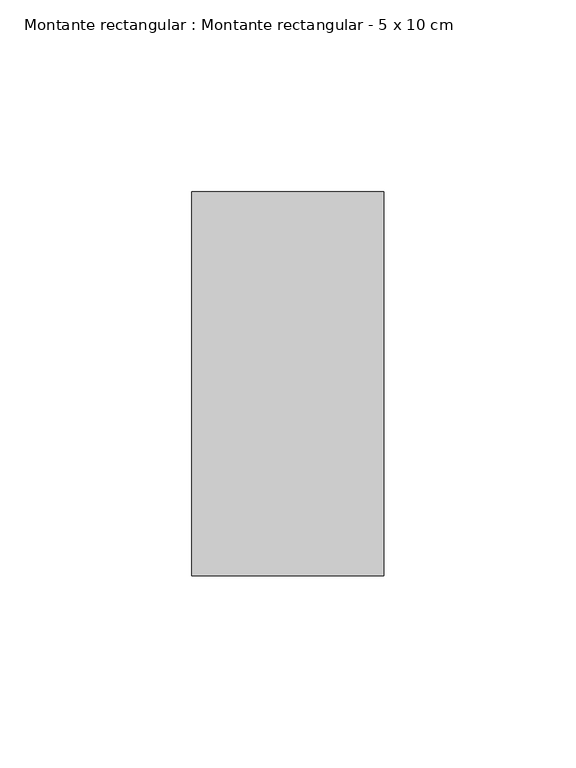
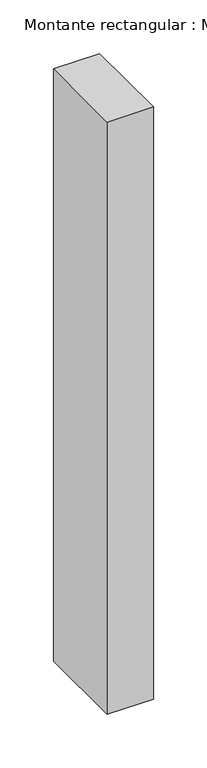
"""IFC4 building model written with IfcOpenShell, lengths in millimetres: member geometry, Montante rectangular : Montante rectangular - 5 x 10 cm."""

import ifcopenshell
import ifcopenshell.guid

model = None  # the IFC model being written
_history = None  # IfcOwnerHistory: only IFC2X3 demands one
_inside = {}  # id of a spatial element -> (the spatial element, [elements in it])
_under = {}  # id of a project, library or spatial element -> (it, [spatial elements below it])
_declared = {}  # id of a project -> (the project, [libraries it declares])
_typed = {}  # id of a type object -> (the type object, [elements of that type])
_made_of = {}  # id of a material, layer set ... -> (it, [elements and type objects made of it])


def new_model(schema):
    """Start an empty IFC model of exactly this schema.

    Asked for "IFC4X3", IfcOpenShell would pick the latest addendum, in which some entities
    have other attributes; the version numbers below select the first issue.
    IFC2X3 requires an IfcOwnerHistory on every rooted entity: one is made here for all.
    """
    global model, _history
    if schema == "IFC4X3":
        model = ifcopenshell.file(schema_version=(4, 3, 0, 0))
    else:
        model = ifcopenshell.file(schema=schema)
    _inside.clear()
    _under.clear()
    _declared.clear()
    _typed.clear()
    _made_of.clear()
    _history = None
    if model.schema == "IFC2X3":
        org = make("IfcOrganization", Name="unknown")
        user = make(
            "IfcPersonAndOrganization",
            ThePerson=make("IfcPerson", FamilyName="unknown"),
            TheOrganization=org,
        )
        app = make(
            "IfcApplication",
            ApplicationDeveloper=org,
            Version="unknown",
            ApplicationFullName="unknown",
            ApplicationIdentifier="unknown",
        )
        _history = make(
            "IfcOwnerHistory",
            OwningUser=user,
            OwningApplication=app,
            ChangeAction="ADDED",
            CreationDate=0,
        )
    return model


def make(cls, **values):
    """One entity of the class cls with the attributes given. An attribute that is None is left unset."""
    return model.create_entity(
        cls, **{name: value for name, value in values.items() if value is not None}
    )


def rooted(cls, **values):
    """An entity with a GlobalId (a new one), such as an element, a storey or a relation."""
    return make(cls, GlobalId=ifcopenshell.guid.new(), OwnerHistory=_history, **values)


def si_unit(unit_type, name, prefix=None):
    """IfcSIUnit, for example si_unit("LENGTHUNIT", "METRE", prefix="MILLI")."""
    return make("IfcSIUnit", UnitType=unit_type, Prefix=prefix, Name=name)


def assignment(units):
    """IfcUnitAssignment: the units of a project."""
    return None if units is None else make("IfcUnitAssignment", Units=units)


def point(xyz):
    """IfcCartesianPoint."""
    return None if xyz is None else make("IfcCartesianPoint", Coordinates=xyz)


def direction(xyz):
    """IfcDirection."""
    return None if xyz is None else make("IfcDirection", DirectionRatios=xyz)


def frame(location, z_axis=None, x_axis=None):
    """IfcAxis2Placement3D, a coordinate frame: its origin and axes. An axis left out is left unset."""
    return make(
        "IfcAxis2Placement3D",
        Location=point(location),
        Axis=direction(z_axis),
        RefDirection=direction(x_axis),
    )


def origin():
    """The frame at (0, 0, 0) with its axes left unset."""
    return frame((0.0, 0.0, 0.0))


def place(relative_to, where):
    """IfcLocalPlacement: puts the frame where relative to a parent placement (None: the world)."""
    return make(
        "IfcLocalPlacement", PlacementRelTo=relative_to, RelativePlacement=where
    )


def context(
    kind, dimensions, precision=None, world=None, true_north=None, identifier=None
):
    """IfcGeometricRepresentationContext, for example the 3D "Model" context."""
    return make(
        "IfcGeometricRepresentationContext",
        ContextIdentifier=identifier,
        ContextType=kind,
        CoordinateSpaceDimension=dimensions,
        Precision=precision,
        WorldCoordinateSystem=world,
        TrueNorth=true_north,
    )


def project(units=None, contexts=None):
    """IfcProject with its units and contexts."""
    return rooted(
        "IfcProject",
        Name="project",
        RepresentationContexts=contexts,
        UnitsInContext=assignment(units),
    )


def spatial(cls, under=None, at=None, **own):
    """A site, building, storey or space (cls), placed at a placement, below another one or the project."""
    s = rooted(cls, ObjectPlacement=at, **own)
    if under is not None:
        _under.setdefault(under.id(), (under, []))[1].append(s)
    return s


def polyline(points):
    """IfcPolyline through the points."""
    return make("IfcPolyline", Points=[point(p) for p in points])


def outline(outer, holes=None, kind="AREA"):
    """IfcArbitraryClosedProfileDef: a profile drawn as a closed curve; with holes, ...WithVoids."""
    if holes is None:
        return make("IfcArbitraryClosedProfileDef", ProfileType=kind, OuterCurve=outer)
    return make(
        "IfcArbitraryProfileDefWithVoids",
        ProfileType=kind,
        OuterCurve=outer,
        InnerCurves=holes,
    )


def extrude(swept, where, along, depth):
    """IfcExtrudedAreaSolid: the profile swept, set in the frame where, extruded along a direction by depth."""
    return make(
        "IfcExtrudedAreaSolid",
        SweptArea=swept,
        Position=where,
        ExtrudedDirection=direction(along),
        Depth=depth,
    )


def shape(context_of_items, identifier, shape_type, items):
    """IfcShapeRepresentation: the items that make up one representation, for example the "Body"."""
    return make(
        "IfcShapeRepresentation",
        ContextOfItems=context_of_items,
        RepresentationIdentifier=identifier,
        RepresentationType=shape_type,
        Items=items,
    )


def source(mapping_origin, context_of_items, identifier, shape_type, items):
    """IfcRepresentationMap: a shape defined once, which mapped items show again and again."""
    return make(
        "IfcRepresentationMap",
        MappingOrigin=mapping_origin,
        MappedRepresentation=shape(context_of_items, identifier, shape_type, items),
    )


def transform(
    local_origin,
    x_axis=None,
    y_axis=None,
    z_axis=None,
    scale=None,
    scale2=None,
    scale3=None,
    uniform=True,
):
    """IfcCartesianTransformationOperator3D, or its non-uniform kind. x_axis, y_axis, z_axis: its Axis1, 2, 3."""
    if uniform:
        return make(
            "IfcCartesianTransformationOperator3D",
            Axis1=direction(x_axis),
            Axis2=direction(y_axis),
            LocalOrigin=point(local_origin),
            Scale=scale,
            Axis3=direction(z_axis),
        )
    return make(
        "IfcCartesianTransformationOperator3DnonUniform",
        Axis1=direction(x_axis),
        Axis2=direction(y_axis),
        LocalOrigin=point(local_origin),
        Scale=scale,
        Axis3=direction(z_axis),
        Scale2=scale2,
        Scale3=scale3,
    )


def mapped(mapping_source, mapping_target):
    """IfcMappedItem: shows the shape of a source again, moved by a transform."""
    return make(
        "IfcMappedItem", MappingSource=mapping_source, MappingTarget=mapping_target
    )


def made_of(thing, what):
    """Note that an element or type object is made of a material, layer set ...; save() writes the relation."""
    if what is not None:
        _made_of.setdefault(what.id(), (what, []))[1].append(thing)
    return thing


def element(
    cls,
    number,
    at=None,
    inside=None,
    cuts=None,
    type_object=None,
    material=None,
    context=None,
    identifier="Body",
    shape_type=None,
    held_by="IfcProductDefinitionShape",
    body=None,
    shapes=None,
    **own,
):
    """One element of the class cls, such as IfcWall. Its Tag is "e" and its number.

    at: its placement. inside: the storey or other place that contains it. cuts: it is an
    opening in that element (IfcRelVoidsElement). A single representation is given by context,
    identifier, shape_type and body (its items); several are given by shapes. held_by: the class
    of the entity that holds the representations. save() writes the other relations.
    """
    e = rooted(cls, Tag="e%d" % number, ObjectPlacement=at, **own)
    if body is not None:
        shapes = [shape(context, identifier, shape_type, body)]
    if shapes is not None:
        e.Representation = make(held_by, Representations=shapes)
    if inside is not None:
        _inside.setdefault(inside.id(), (inside, []))[1].append(e)
    if cuts is not None:
        rooted(
            "IfcRelVoidsElement", RelatingBuildingElement=cuts, RelatedOpeningElement=e
        )
    if type_object is not None:
        _typed.setdefault(type_object.id(), (type_object, []))[1].append(e)
    return made_of(e, material)


def aggregate(whole, parts):
    """IfcRelAggregates: a whole, such as a stair, and the parts it consists of."""
    return rooted("IfcRelAggregates", RelatingObject=whole, RelatedObjects=parts)


def save(model, path):
    """Write the relations noted so far, then the file.

    IfcRelAggregates (storeys below a building ...), IfcRelContainedInSpatialStructure (elements
    in a storey), IfcRelDefinesByType, IfcRelAssociatesMaterial and IfcRelDeclares: one each for
    every whole, place, type object, material and project.
    """
    for whole, parts in _under.values():
        aggregate(whole, parts)
    for where, things in _inside.values():
        rooted(
            "IfcRelContainedInSpatialStructure",
            RelatedElements=things,
            RelatingStructure=where,
        )
    for kind, things in _typed.values():
        rooted("IfcRelDefinesByType", RelatedObjects=things, RelatingType=kind)
    for what, things in _made_of.values():
        rooted("IfcRelAssociatesMaterial", RelatedObjects=things, RelatingMaterial=what)
    for by, libraries in _declared.values():
        rooted("IfcRelDeclares", RelatingContext=by, RelatedDefinitions=libraries)
    model.write(path)


def montante_rectangular_montante_rectangular_5_x_10_cm_c30589b3(model_context):
    return source(origin(), model_context, "Body", "SweptSolid", [
        extrude(outline(polyline([(0.0, 50.0), (0.0, -50.0), (-50.0, -50.0), (-50.0, 50.0), (0.0, 50.0)])), frame((0.0, 0.0, -675.0), z_axis=(0.0, 0.0, 1.0), x_axis=(1.0, 0.0, 0.0)), (0.0, 0.0, 1.0), 675.0),
    ])


if __name__ == "__main__":
    model = new_model("IFC4")
    model_context = context("Model", 3, world=origin())
    ifc_project = project(units=[si_unit("LENGTHUNIT", "METRE", prefix="MILLI")], contexts=[model_context])
    site = spatial("IfcSite", under=ifc_project)
    building = spatial("IfcBuilding", under=site)
    placement = place(None, origin())
    montante_rectangular_montante_rectangular_5_x_10_cm_shape = montante_rectangular_montante_rectangular_5_x_10_cm_c30589b3(model_context)
    element("IfcMember", 1, ObjectType="Montante rectangular : Montante rectangular - 5 x 10 cm", at=placement, inside=building, context=model_context, shape_type="MappedRepresentation", body=[
        mapped(montante_rectangular_montante_rectangular_5_x_10_cm_shape, transform((0.0, 0.0, 0.0), x_axis=(1.0, 0.0, 0.0), y_axis=(0.0, 1.0, 0.0), z_axis=(0.0, 0.0, 1.0))),
    ])
    save(model, "model.ifc")
